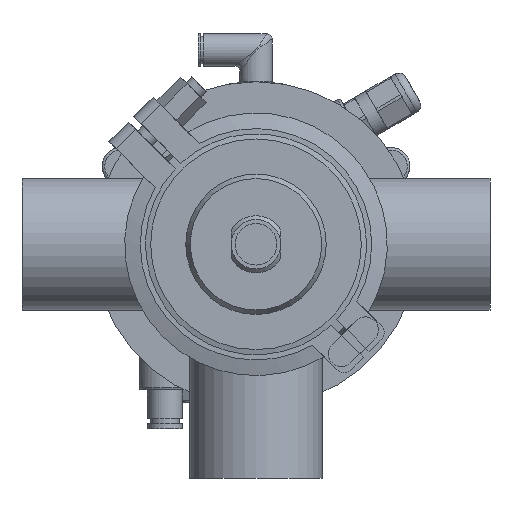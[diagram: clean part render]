
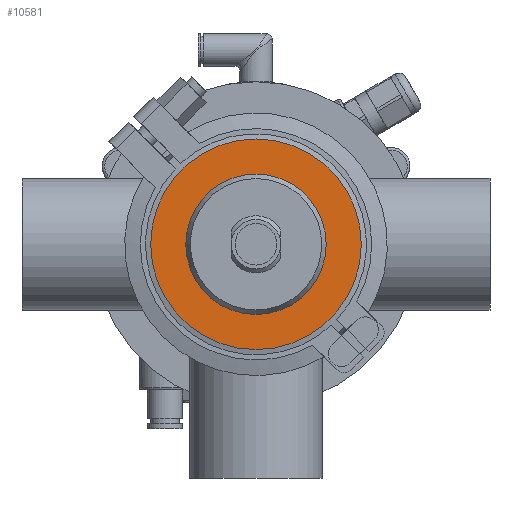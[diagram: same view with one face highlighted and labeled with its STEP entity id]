
A CAD part, front view. The second image highlights one B-rep face of the part: STEP entity #10581.
In plain terms, the highlighted planar face has unit normal (0, -1, 0).
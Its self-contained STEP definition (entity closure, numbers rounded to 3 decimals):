
#492 = ORIENTED_EDGE ( 'NONE', *, *, #24734, .T. ) ;
#9175 = CIRCLE ( 'NONE', #22173, 27. ) ;
#9701 = ORIENTED_EDGE ( 'NONE', *, *, #56900, .F. ) ;
#10581 = ADVANCED_FACE ( 'NONE', ( #13840, #14130 ), #23246, .T. ) ;
#13840 = FACE_BOUND ( 'NONE', #29706, .T. ) ;
#14130 = FACE_OUTER_BOUND ( 'NONE', #39352, .T. ) ;
#15853 = CARTESIAN_POINT ( 'NONE',  ( 0., -13., 27. ) ) ;
#15989 = DIRECTION ( 'NONE',  ( 0., 1., 0. ) ) ;
#20168 = AXIS2_PLACEMENT_3D ( 'NONE', #47819, #57464, #48135 ) ;
#20703 = AXIS2_PLACEMENT_3D ( 'NONE', #55132, #21506, #55446 ) ;
#21506 = DIRECTION ( 'NONE',  ( 0., 1., 0. ) ) ;
#22173 = AXIS2_PLACEMENT_3D ( 'NONE', #54031, #15989, #45010 ) ;
#23246 = PLANE ( 'NONE',  #20168 ) ;
#24734 = EDGE_CURVE ( 'NONE', #44282, #44282, #9175, .T. ) ;
#29706 = EDGE_LOOP ( 'NONE', ( #492 ) ) ;
#31683 = CIRCLE ( 'NONE', #20703, 40.5 ) ;
#35850 = VERTEX_POINT ( 'NONE', #58868 ) ;
#39352 = EDGE_LOOP ( 'NONE', ( #9701 ) ) ;
#44282 = VERTEX_POINT ( 'NONE', #15853 ) ;
#45010 = DIRECTION ( 'NONE',  ( 0., 0., 1. ) ) ;
#47819 = CARTESIAN_POINT ( 'NONE',  ( -40.5, -13., 0. ) ) ;
#48135 = DIRECTION ( 'NONE',  ( 0., 0., -1. ) ) ;
#54031 = CARTESIAN_POINT ( 'NONE',  ( 0., -13., 0. ) ) ;
#55132 = CARTESIAN_POINT ( 'NONE',  ( 0., -13., 0. ) ) ;
#55446 = DIRECTION ( 'NONE',  ( 0., 0., 1. ) ) ;
#56900 = EDGE_CURVE ( 'NONE', #35850, #35850, #31683, .T. ) ;
#57464 = DIRECTION ( 'NONE',  ( 0., -1., 0. ) ) ;
#58868 = CARTESIAN_POINT ( 'NONE',  ( 0., -13., 40.5 ) ) ;
